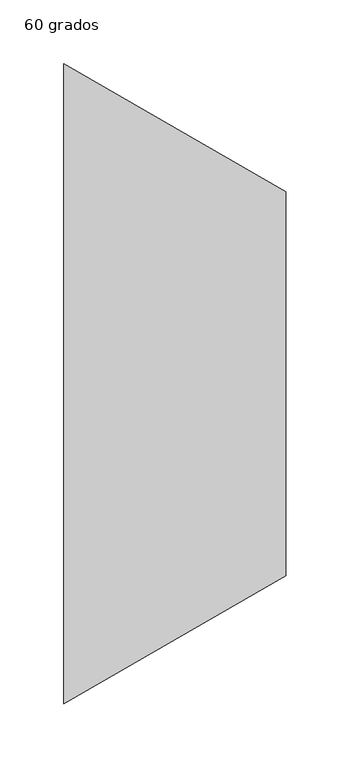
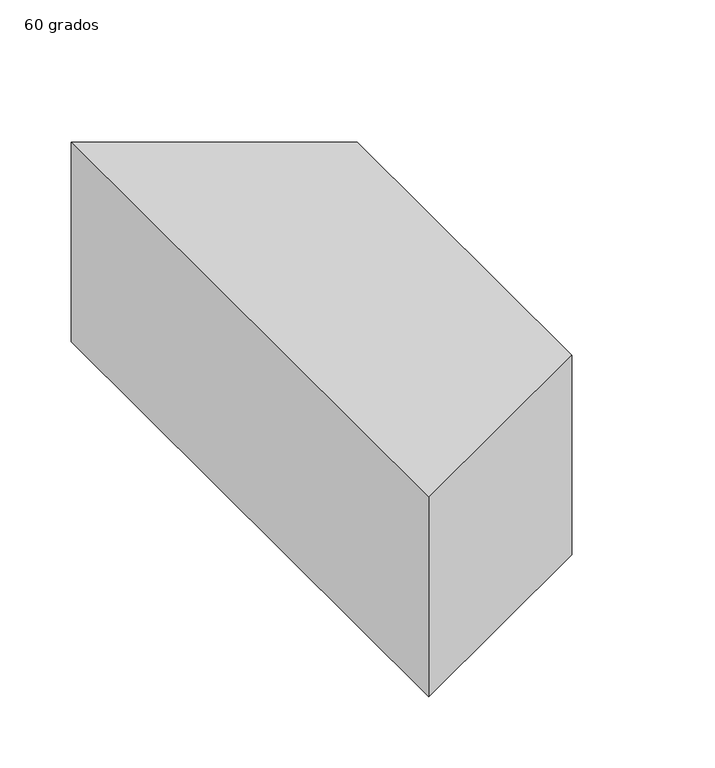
"""IFC4 building model written with IfcOpenShell, lengths in millimetres: duct fitting geometry, M_Transición rectangular - Ángulo : 60 grados."""

from ifc_helpers import new_model, si_unit, frame, origin, place, context, project, spatial, polyline, outline, extrude, source, transform, mapped, element, save


def duct_fitting_60_grados_33bf70db(model_context):
    return source(origin(), model_context, "Body", "SweptSolid", [
        extrude(outline(polyline([(0.0, -250.0), (0.0, 250.0), (173.2050808, 150.0), (173.2050808, -150.0), (0.0, -250.0)])), frame((0.0, 0.0, -85.0), z_axis=(0.0, 0.0, 1.0), x_axis=(1.0, 0.0, 0.0)), (0.0, 0.0, 1.0), 170.0),
    ])


if __name__ == "__main__":
    model = new_model("IFC4")
    model_context = context("Model", 3, world=origin())
    ifc_project = project(units=[si_unit("LENGTHUNIT", "METRE", prefix="MILLI")], contexts=[model_context])
    site = spatial("IfcSite", under=ifc_project)
    building = spatial("IfcBuilding", under=site)
    placement = place(None, origin())
    duct_fitting_60_grados_shape = duct_fitting_60_grados_33bf70db(model_context)
    element("IfcDuctFitting", 1, ObjectType="M_Transición rectangular - Ángulo : 60 grados", at=placement, inside=building, context=model_context, shape_type="MappedRepresentation", body=[
        mapped(duct_fitting_60_grados_shape, transform((0.0, 0.0, 0.0), x_axis=(1.0, 0.0, 0.0), y_axis=(0.0, 1.0, 0.0), z_axis=(0.0, 0.0, 1.0))),
    ])
    save(model, "model.ifc")
